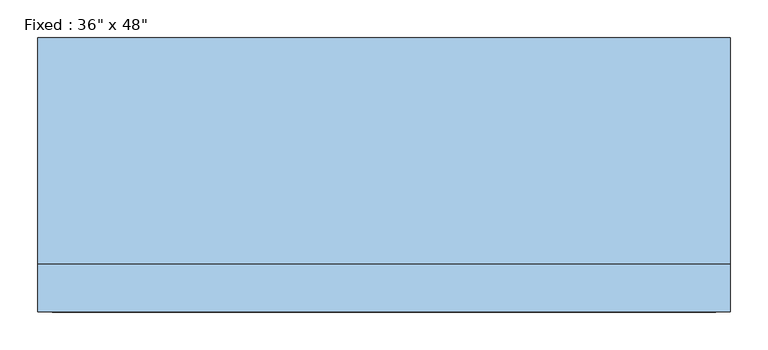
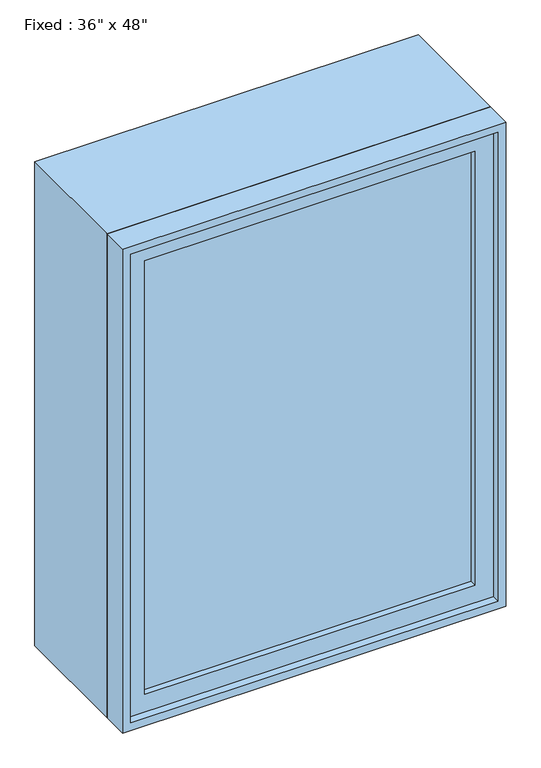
"""IFC4 building model written with IfcOpenShell, lengths in millimetres: window geometry."""

import ifcopenshell
import ifcopenshell.guid

model = None  # the IFC model being written
_history = None  # IfcOwnerHistory: only IFC2X3 demands one
_inside = {}  # id of a spatial element -> (the spatial element, [elements in it])
_under = {}  # id of a project, library or spatial element -> (it, [spatial elements below it])
_declared = {}  # id of a project -> (the project, [libraries it declares])
_typed = {}  # id of a type object -> (the type object, [elements of that type])
_made_of = {}  # id of a material, layer set ... -> (it, [elements and type objects made of it])


def new_model(schema):
    """Start an empty IFC model of exactly this schema.

    Asked for "IFC4X3", IfcOpenShell would pick the latest addendum, in which some entities
    have other attributes; the version numbers below select the first issue.
    IFC2X3 requires an IfcOwnerHistory on every rooted entity: one is made here for all.
    """
    global model, _history
    if schema == "IFC4X3":
        model = ifcopenshell.file(schema_version=(4, 3, 0, 0))
    else:
        model = ifcopenshell.file(schema=schema)
    _inside.clear()
    _under.clear()
    _declared.clear()
    _typed.clear()
    _made_of.clear()
    _history = None
    if model.schema == "IFC2X3":
        org = make("IfcOrganization", Name="unknown")
        user = make(
            "IfcPersonAndOrganization",
            ThePerson=make("IfcPerson", FamilyName="unknown"),
            TheOrganization=org,
        )
        app = make(
            "IfcApplication",
            ApplicationDeveloper=org,
            Version="unknown",
            ApplicationFullName="unknown",
            ApplicationIdentifier="unknown",
        )
        _history = make(
            "IfcOwnerHistory",
            OwningUser=user,
            OwningApplication=app,
            ChangeAction="ADDED",
            CreationDate=0,
        )
    return model


def make(cls, **values):
    """One entity of the class cls with the attributes given. An attribute that is None is left unset."""
    return model.create_entity(
        cls, **{name: value for name, value in values.items() if value is not None}
    )


def rooted(cls, **values):
    """An entity with a GlobalId (a new one), such as an element, a storey or a relation."""
    return make(cls, GlobalId=ifcopenshell.guid.new(), OwnerHistory=_history, **values)


def si_unit(unit_type, name, prefix=None):
    """IfcSIUnit, for example si_unit("LENGTHUNIT", "METRE", prefix="MILLI")."""
    return make("IfcSIUnit", UnitType=unit_type, Prefix=prefix, Name=name)


def assignment(units):
    """IfcUnitAssignment: the units of a project."""
    return None if units is None else make("IfcUnitAssignment", Units=units)


def point(xyz):
    """IfcCartesianPoint."""
    return None if xyz is None else make("IfcCartesianPoint", Coordinates=xyz)


def direction(xyz):
    """IfcDirection."""
    return None if xyz is None else make("IfcDirection", DirectionRatios=xyz)


def frame(location, z_axis=None, x_axis=None):
    """IfcAxis2Placement3D, a coordinate frame: its origin and axes. An axis left out is left unset."""
    return make(
        "IfcAxis2Placement3D",
        Location=point(location),
        Axis=direction(z_axis),
        RefDirection=direction(x_axis),
    )


def origin():
    """The frame at (0, 0, 0) with its axes left unset."""
    return frame((0.0, 0.0, 0.0))


def place(relative_to, where):
    """IfcLocalPlacement: puts the frame where relative to a parent placement (None: the world)."""
    return make(
        "IfcLocalPlacement", PlacementRelTo=relative_to, RelativePlacement=where
    )


def context(
    kind, dimensions, precision=None, world=None, true_north=None, identifier=None
):
    """IfcGeometricRepresentationContext, for example the 3D "Model" context."""
    return make(
        "IfcGeometricRepresentationContext",
        ContextIdentifier=identifier,
        ContextType=kind,
        CoordinateSpaceDimension=dimensions,
        Precision=precision,
        WorldCoordinateSystem=world,
        TrueNorth=true_north,
    )


def project(units=None, contexts=None):
    """IfcProject with its units and contexts."""
    return rooted(
        "IfcProject",
        Name="project",
        RepresentationContexts=contexts,
        UnitsInContext=assignment(units),
    )


def spatial(cls, under=None, at=None, **own):
    """A site, building, storey or space (cls), placed at a placement, below another one or the project."""
    s = rooted(cls, ObjectPlacement=at, **own)
    if under is not None:
        _under.setdefault(under.id(), (under, []))[1].append(s)
    return s


def polyline(points):
    """IfcPolyline through the points."""
    return make("IfcPolyline", Points=[point(p) for p in points])


def outline(outer, holes=None, kind="AREA"):
    """IfcArbitraryClosedProfileDef: a profile drawn as a closed curve; with holes, ...WithVoids."""
    if holes is None:
        return make("IfcArbitraryClosedProfileDef", ProfileType=kind, OuterCurve=outer)
    return make(
        "IfcArbitraryProfileDefWithVoids",
        ProfileType=kind,
        OuterCurve=outer,
        InnerCurves=holes,
    )


def extrude(swept, where, along, depth):
    """IfcExtrudedAreaSolid: the profile swept, set in the frame where, extruded along a direction by depth."""
    return make(
        "IfcExtrudedAreaSolid",
        SweptArea=swept,
        Position=where,
        ExtrudedDirection=direction(along),
        Depth=depth,
    )


def shape(context_of_items, identifier, shape_type, items):
    """IfcShapeRepresentation: the items that make up one representation, for example the "Body"."""
    return make(
        "IfcShapeRepresentation",
        ContextOfItems=context_of_items,
        RepresentationIdentifier=identifier,
        RepresentationType=shape_type,
        Items=items,
    )


def source(mapping_origin, context_of_items, identifier, shape_type, items):
    """IfcRepresentationMap: a shape defined once, which mapped items show again and again."""
    return make(
        "IfcRepresentationMap",
        MappingOrigin=mapping_origin,
        MappedRepresentation=shape(context_of_items, identifier, shape_type, items),
    )


def transform(
    local_origin,
    x_axis=None,
    y_axis=None,
    z_axis=None,
    scale=None,
    scale2=None,
    scale3=None,
    uniform=True,
):
    """IfcCartesianTransformationOperator3D, or its non-uniform kind. x_axis, y_axis, z_axis: its Axis1, 2, 3."""
    if uniform:
        return make(
            "IfcCartesianTransformationOperator3D",
            Axis1=direction(x_axis),
            Axis2=direction(y_axis),
            LocalOrigin=point(local_origin),
            Scale=scale,
            Axis3=direction(z_axis),
        )
    return make(
        "IfcCartesianTransformationOperator3DnonUniform",
        Axis1=direction(x_axis),
        Axis2=direction(y_axis),
        LocalOrigin=point(local_origin),
        Scale=scale,
        Axis3=direction(z_axis),
        Scale2=scale2,
        Scale3=scale3,
    )


def mapped(mapping_source, mapping_target):
    """IfcMappedItem: shows the shape of a source again, moved by a transform."""
    return make(
        "IfcMappedItem", MappingSource=mapping_source, MappingTarget=mapping_target
    )


def made_of(thing, what):
    """Note that an element or type object is made of a material, layer set ...; save() writes the relation."""
    if what is not None:
        _made_of.setdefault(what.id(), (what, []))[1].append(thing)
    return thing


def element(
    cls,
    number,
    at=None,
    inside=None,
    cuts=None,
    type_object=None,
    material=None,
    context=None,
    identifier="Body",
    shape_type=None,
    held_by="IfcProductDefinitionShape",
    body=None,
    shapes=None,
    **own,
):
    """One element of the class cls, such as IfcWall. Its Tag is "e" and its number.

    at: its placement. inside: the storey or other place that contains it. cuts: it is an
    opening in that element (IfcRelVoidsElement). A single representation is given by context,
    identifier, shape_type and body (its items); several are given by shapes. held_by: the class
    of the entity that holds the representations. save() writes the other relations.
    """
    e = rooted(cls, Tag="e%d" % number, ObjectPlacement=at, **own)
    if body is not None:
        shapes = [shape(context, identifier, shape_type, body)]
    if shapes is not None:
        e.Representation = make(held_by, Representations=shapes)
    if inside is not None:
        _inside.setdefault(inside.id(), (inside, []))[1].append(e)
    if cuts is not None:
        rooted(
            "IfcRelVoidsElement", RelatingBuildingElement=cuts, RelatedOpeningElement=e
        )
    if type_object is not None:
        _typed.setdefault(type_object.id(), (type_object, []))[1].append(e)
    return made_of(e, material)


def aggregate(whole, parts):
    """IfcRelAggregates: a whole, such as a stair, and the parts it consists of."""
    return rooted("IfcRelAggregates", RelatingObject=whole, RelatedObjects=parts)


def save(model, path):
    """Write the relations noted so far, then the file.

    IfcRelAggregates (storeys below a building ...), IfcRelContainedInSpatialStructure (elements
    in a storey), IfcRelDefinesByType, IfcRelAssociatesMaterial and IfcRelDeclares: one each for
    every whole, place, type object, material and project.
    """
    for whole, parts in _under.values():
        aggregate(whole, parts)
    for where, things in _inside.values():
        rooted(
            "IfcRelContainedInSpatialStructure",
            RelatedElements=things,
            RelatingStructure=where,
        )
    for kind, things in _typed.values():
        rooted("IfcRelDefinesByType", RelatedObjects=things, RelatingType=kind)
    for what, things in _made_of.values():
        rooted("IfcRelAssociatesMaterial", RelatedObjects=things, RelatingMaterial=what)
    for by, libraries in _declared.values():
        rooted("IfcRelDeclares", RelatingContext=by, RelatedDefinitions=libraries)
    model.write(path)


def window_0fe20cff(model_context):
    return source(origin(), model_context, "Body", "SweptSolid", [
        extrude(outline(polyline([(355.6, -133.35), (355.6, -146.05), (-431.8, -146.05), (-431.8, -133.35), (355.6, -133.35)])), frame((0.0, 0.0, 977.9), z_axis=(0.0, 0.0, 1.0), x_axis=(1.0, 0.0, 0.0)), (0.0, 0.0, 1.0), 1092.2),
        extrude(outline(polyline([(2114.55, -476.25), (933.45, -476.25), (933.45, 400.05), (2114.55, 400.05), (2114.55, -476.25)]), holes=[polyline([(2070.1, -431.8), (2070.1, 355.6), (977.9, 355.6), (977.9, -431.8), (2070.1, -431.8)])]), frame((0.0, -161.925, 0.0), z_axis=(0.0, 1.0, 0.0), x_axis=(0.0, 0.0, 1.0)), (0.0, 0.0, 1.0), 44.45),
        extrude(outline(polyline([(2133.6, -495.3), (914.4, -495.3), (914.4, 419.1), (2133.6, 419.1), (2133.6, -495.3)]), holes=[polyline([(2101.85, -463.55), (2101.85, 387.35), (946.15, 387.35), (946.15, -463.55), (2101.85, -463.55)])]), frame((0.0, -117.475, 0.0), z_axis=(0.0, 1.0, 0.0), x_axis=(0.0, 0.0, 1.0)), (0.0, 0.0, 1.0), 298.45),
        extrude(outline(polyline([(2133.6, 419.1), (2133.6, -495.3), (914.4, -495.3), (914.4, 419.1), (2133.6, 419.1)]), holes=[polyline([(2114.55, 400.05), (933.45, 400.05), (933.45, -476.25), (2114.55, -476.25), (2114.55, 400.05)])]), frame((0.0, -180.975, 0.0), z_axis=(0.0, 1.0, 0.0), x_axis=(0.0, 0.0, 1.0)), (0.0, 0.0, 1.0), 63.5),
    ])


if __name__ == "__main__":
    model = new_model("IFC4")
    model_context = context("Model", 3, world=origin())
    ifc_project = project(units=[si_unit("LENGTHUNIT", "METRE", prefix="MILLI")], contexts=[model_context])
    site = spatial("IfcSite", under=ifc_project)
    building = spatial("IfcBuilding", under=site)
    placement = place(None, origin())
    window_shape = window_0fe20cff(model_context)
    element("IfcWindow", 1, ObjectType="Fixed : 36\" x 48\"", at=placement, inside=building, context=model_context, shape_type="MappedRepresentation", body=[
        mapped(window_shape, transform((0.0, 0.0, 0.0), x_axis=(1.0, 0.0, 0.0), y_axis=(0.0, 1.0, 0.0), z_axis=(0.0, 0.0, 1.0))),
    ])
    save(model, "model.ifc")
